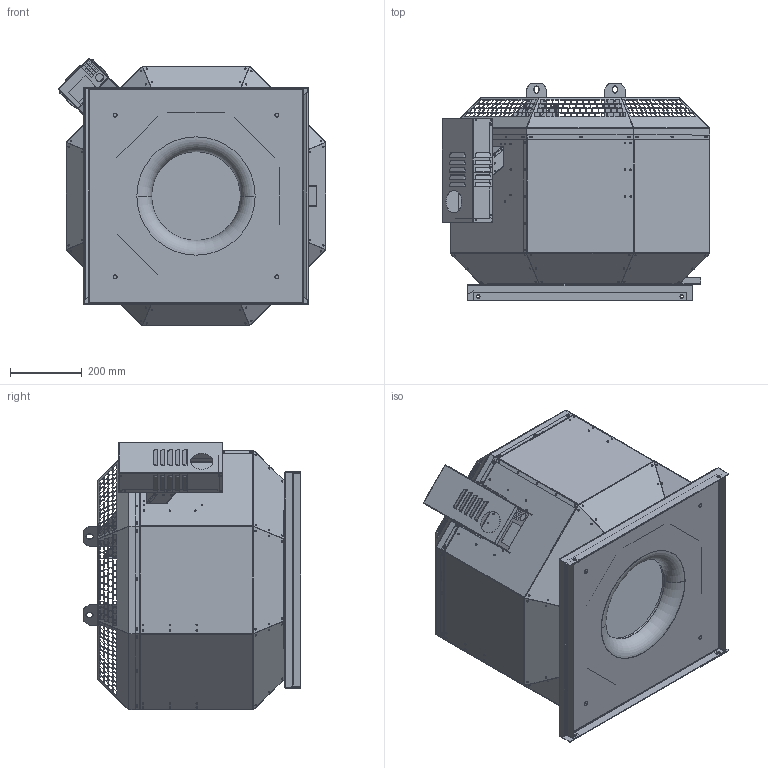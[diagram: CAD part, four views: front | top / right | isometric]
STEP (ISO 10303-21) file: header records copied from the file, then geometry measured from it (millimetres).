
FILE_DESCRIPTION (( 'STEP AP203' ), '1' );
FILE_NAME ('144881-01_DVN400D430_step.step', '2018-08-06T07:09:20', ( '' ), ( '' ), 'SwSTEP 2.0', 'SolidWorks 2017', '' );
FILE_SCHEMA (( 'CONFIG_CONTROL_DESIGN' ));
Products named in the file (1): 144881-01_DVN400D430_step
Bounding box: 744.33 x 604.01 x 744.33 mm (x, y, z)
Surface area: 4534158.6 mm2 (no closed solid volume)
Topology: 0 solids, 53 shells, 2197 faces, 13374 edges, 10212 vertices
Faces by surface type: plane 1691, cylinder 428, bspline 74, torus 4
Entity records: 146155 total; most frequent: CARTESIAN_POINT 43325, DIRECTION 18706, ORIENTED_EDGE 18111, EDGE_CURVE 13374, VECTOR 11436, LINE 11436, VERTEX_POINT 10212, EDGE_LOOP 4734
